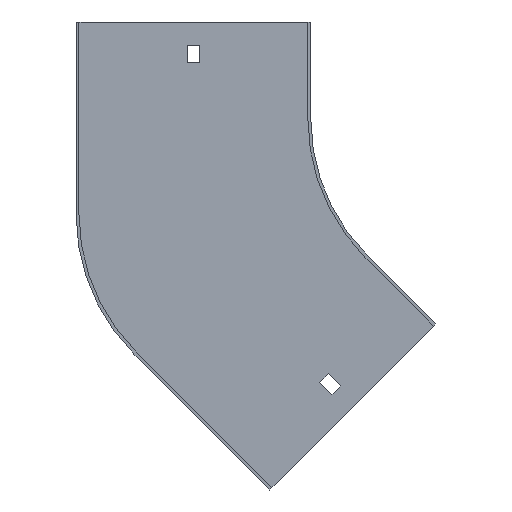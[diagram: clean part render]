
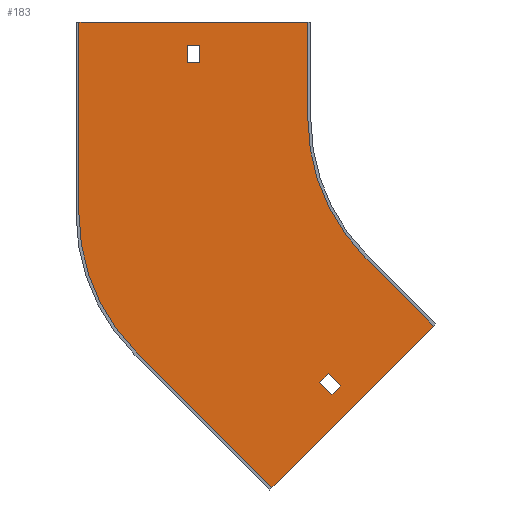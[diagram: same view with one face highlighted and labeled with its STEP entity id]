
A CAD part, front view. The second image highlights one B-rep face of the part: STEP entity #183.
In plain terms, the highlighted planar face has unit normal (0, -1, 0).
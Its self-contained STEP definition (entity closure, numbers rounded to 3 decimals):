
#2 = EDGE_CURVE ( 'NONE', #253, #826, #580, .T. ) ;
#4 = DIRECTION ( 'NONE',  ( -1., 0., 0. ) ) ;
#8 = VECTOR ( 'NONE', #830, 1000. ) ;
#9 = LINE ( 'NONE', #669, #700 ) ;
#21 = ORIENTED_EDGE ( 'NONE', *, *, #709, .F. ) ;
#26 = CARTESIAN_POINT ( 'NONE',  ( -219., -1.5, 50. ) ) ;
#28 = LINE ( 'NONE', #617, #50 ) ;
#32 = EDGE_CURVE ( 'NONE', #560, #77, #521, .T. ) ;
#33 = CARTESIAN_POINT ( 'NONE',  ( -100., -1.5, 50. ) ) ;
#35 = VERTEX_POINT ( 'NONE', #108 ) ;
#36 = VERTEX_POINT ( 'NONE', #240 ) ;
#37 = CARTESIAN_POINT ( 'NONE',  ( -162., -1.5, 29. ) ) ;
#40 = VERTEX_POINT ( 'NONE', #187 ) ;
#43 = LINE ( 'NONE', #720, #833 ) ;
#50 = VECTOR ( 'NONE', #362, 1000. ) ;
#57 = VERTEX_POINT ( 'NONE', #374 ) ;
#61 = EDGE_CURVE ( 'NONE', #850, #253, #43, .T. ) ;
#75 = CIRCLE ( 'NONE', #735, 100. ) ;
#77 = VERTEX_POINT ( 'NONE', #851 ) ;
#87 = LINE ( 'NONE', #26, #303 ) ;
#91 = EDGE_CURVE ( 'NONE', #77, #639, #673, .T. ) ;
#108 = CARTESIAN_POINT ( 'NONE',  ( -70.711, -1.5, -70.711 ) ) ;
#117 = DIRECTION ( 'NONE',  ( -0.707, 0., -0.707 ) ) ;
#121 = DIRECTION ( 'NONE',  ( -0.707, 0., 0.707 ) ) ;
#129 = DIRECTION ( 'NONE',  ( 0., 0., -1. ) ) ;
#142 = LINE ( 'NONE', #399, #670 ) ;
#144 = CARTESIAN_POINT ( 'NONE',  ( -217.5, -1.5, -48.67 ) ) ;
#145 = EDGE_CURVE ( 'NONE', #386, #35, #195, .T. ) ;
#150 = CARTESIAN_POINT ( 'NONE',  ( -35.355, -1.5, -106.066 ) ) ;
#172 = CARTESIAN_POINT ( 'NONE',  ( -100., -1.5, 50. ) ) ;
#183 = ADVANCED_FACE ( 'NONE', ( #794, #262, #405 ), #680, .T. ) ;
#187 = CARTESIAN_POINT ( 'NONE',  ( -118.44, -1.5, -189.151 ) ) ;
#193 = CARTESIAN_POINT ( 'NONE',  ( 0., -1.5, 0. ) ) ;
#195 = CIRCLE ( 'NONE', #668, 100. ) ;
#198 = DIRECTION ( 'NONE',  ( 0., 0., -1. ) ) ;
#201 = EDGE_CURVE ( 'NONE', #639, #319, #9, .T. ) ;
#204 = DIRECTION ( 'NONE',  ( 0., 0., 1. ) ) ;
#214 = ORIENTED_EDGE ( 'NONE', *, *, #145, .F. ) ;
#216 = ORIENTED_EDGE ( 'NONE', *, *, #91, .T. ) ;
#233 = CARTESIAN_POINT ( 'NONE',  ( -70.711, -1.5, -70.711 ) ) ;
#234 = ORIENTED_EDGE ( 'NONE', *, *, #410, .F. ) ;
#235 = EDGE_CURVE ( 'NONE', #699, #36, #638, .T. ) ;
#238 = ORIENTED_EDGE ( 'NONE', *, *, #488, .F. ) ;
#240 = CARTESIAN_POINT ( 'NONE',  ( -217.5, -1.5, 50. ) ) ;
#253 = VERTEX_POINT ( 'NONE', #359 ) ;
#262 = FACE_OUTER_BOUND ( 'NONE', #551, .T. ) ;
#264 = CARTESIAN_POINT ( 'NONE',  ( -162., -1.5, 38. ) ) ;
#289 = ORIENTED_EDGE ( 'NONE', *, *, #61, .F. ) ;
#290 = LINE ( 'NONE', #33, #449 ) ;
#303 = VECTOR ( 'NONE', #486, 1000. ) ;
#304 = ORIENTED_EDGE ( 'NONE', *, *, #855, .F. ) ;
#309 = DIRECTION ( 'NONE',  ( -0.707, 0., -0.707 ) ) ;
#310 = CARTESIAN_POINT ( 'NONE',  ( -34.295, -1.5, -105.005 ) ) ;
#319 = VERTEX_POINT ( 'NONE', #37 ) ;
#326 = VECTOR ( 'NONE', #121, 1000. ) ;
#329 = CARTESIAN_POINT ( 'NONE',  ( -89.449, -1.5, -130.461 ) ) ;
#346 = CARTESIAN_POINT ( 'NONE',  ( -217.5, -1.5, -48.67 ) ) ;
#359 = CARTESIAN_POINT ( 'NONE',  ( -94.045, -1.5, -135.057 ) ) ;
#361 = EDGE_LOOP ( 'NONE', ( #439, #216, #369, #854 ) ) ;
#362 = DIRECTION ( 'NONE',  ( 0.707, 0., 0.707 ) ) ;
#369 = ORIENTED_EDGE ( 'NONE', *, *, #201, .T. ) ;
#374 = CARTESIAN_POINT ( 'NONE',  ( -188.211, -1.5, -119.381 ) ) ;
#379 = CARTESIAN_POINT ( 'NONE',  ( -100., -1.5, 0. ) ) ;
#383 = CARTESIAN_POINT ( 'NONE',  ( -109.955, -1.5, -109.955 ) ) ;
#386 = VERTEX_POINT ( 'NONE', #379 ) ;
#399 = CARTESIAN_POINT ( 'NONE',  ( -162., -1.5, 0. ) ) ;
#405 = FACE_BOUND ( 'NONE', #361, .T. ) ;
#410 = EDGE_CURVE ( 'NONE', #683, #40, #777, .T. ) ;
#412 = VERTEX_POINT ( 'NONE', #172 ) ;
#420 = ORIENTED_EDGE ( 'NONE', *, *, #474, .F. ) ;
#439 = ORIENTED_EDGE ( 'NONE', *, *, #32, .T. ) ;
#448 = VECTOR ( 'NONE', #117, 1000. ) ;
#449 = VECTOR ( 'NONE', #750, 1000. ) ;
#457 = DIRECTION ( 'NONE',  ( 0., -1., 0. ) ) ;
#461 = VECTOR ( 'NONE', #659, 1000. ) ;
#462 = DIRECTION ( 'NONE',  ( 0., 1., 0. ) ) ;
#474 = EDGE_CURVE ( 'NONE', #634, #850, #722, .T. ) ;
#477 = VECTOR ( 'NONE', #848, 1000. ) ;
#483 = CARTESIAN_POINT ( 'NONE',  ( -83.085, -1.5, -136.825 ) ) ;
#485 = ORIENTED_EDGE ( 'NONE', *, *, #726, .F. ) ;
#486 = DIRECTION ( 'NONE',  ( 1., 0., 0. ) ) ;
#488 = EDGE_CURVE ( 'NONE', #35, #683, #836, .T. ) ;
#504 = ORIENTED_EDGE ( 'NONE', *, *, #622, .F. ) ;
#511 = VECTOR ( 'NONE', #198, 1000. ) ;
#521 = LINE ( 'NONE', #717, #721 ) ;
#551 = EDGE_LOOP ( 'NONE', ( #304, #856, #642, #504, #234, #238, #214, #485 ) ) ;
#560 = VERTEX_POINT ( 'NONE', #264 ) ;
#580 = LINE ( 'NONE', #650, #477 ) ;
#606 = DIRECTION ( 'NONE',  ( 0., -1., 0. ) ) ;
#614 = CARTESIAN_POINT ( 'NONE',  ( -155.5, -1.5, 0. ) ) ;
#615 = CARTESIAN_POINT ( 'NONE',  ( -117.5, -1.5, -48.67 ) ) ;
#617 = CARTESIAN_POINT ( 'NONE',  ( 26.87, -1.5, -26.87 ) ) ;
#622 = EDGE_CURVE ( 'NONE', #40, #57, #787, .T. ) ;
#634 = VERTEX_POINT ( 'NONE', #483 ) ;
#638 = LINE ( 'NONE', #346, #8 ) ;
#639 = VERTEX_POINT ( 'NONE', #812 ) ;
#642 = ORIENTED_EDGE ( 'NONE', *, *, #820, .F. ) ;
#650 = CARTESIAN_POINT ( 'NONE',  ( -114.551, -1.5, -114.551 ) ) ;
#654 = VECTOR ( 'NONE', #710, 1000. ) ;
#659 = DIRECTION ( 'NONE',  ( -0.707, 0., 0.707 ) ) ;
#664 = CARTESIAN_POINT ( 'NONE',  ( 0., -1.5, 0. ) ) ;
#668 = AXIS2_PLACEMENT_3D ( 'NONE', #193, #457, #805 ) ;
#669 = CARTESIAN_POINT ( 'NONE',  ( 0., -1.5, 29. ) ) ;
#670 = VECTOR ( 'NONE', #204, 1000. ) ;
#673 = LINE ( 'NONE', #614, #511 ) ;
#680 = PLANE ( 'NONE',  #857 ) ;
#683 = VERTEX_POINT ( 'NONE', #150 ) ;
#692 = ORIENTED_EDGE ( 'NONE', *, *, #2, .F. ) ;
#699 = VERTEX_POINT ( 'NONE', #144 ) ;
#700 = VECTOR ( 'NONE', #4, 1000. ) ;
#709 = EDGE_CURVE ( 'NONE', #826, #634, #28, .T. ) ;
#710 = DIRECTION ( 'NONE',  ( 0.707, 0., -0.707 ) ) ;
#717 = CARTESIAN_POINT ( 'NONE',  ( 0., -1.5, 38. ) ) ;
#720 = CARTESIAN_POINT ( 'NONE',  ( 20.506, -1.5, -20.506 ) ) ;
#721 = VECTOR ( 'NONE', #790, 1000. ) ;
#722 = LINE ( 'NONE', #383, #461 ) ;
#726 = EDGE_CURVE ( 'NONE', #412, #386, #290, .T. ) ;
#727 = CARTESIAN_POINT ( 'NONE',  ( -118.44, -1.5, -189.151 ) ) ;
#735 = AXIS2_PLACEMENT_3D ( 'NONE', #615, #462, #802 ) ;
#739 = CARTESIAN_POINT ( 'NONE',  ( -87.681, -1.5, -141.421 ) ) ;
#750 = DIRECTION ( 'NONE',  ( 0., 0., -1. ) ) ;
#777 = LINE ( 'NONE', #310, #448 ) ;
#787 = LINE ( 'NONE', #727, #326 ) ;
#790 = DIRECTION ( 'NONE',  ( 1., 0., 0. ) ) ;
#794 = FACE_BOUND ( 'NONE', #807, .T. ) ;
#802 = DIRECTION ( 'NONE',  ( 0., 0., -1. ) ) ;
#805 = DIRECTION ( 'NONE',  ( 0., 0., -1. ) ) ;
#807 = EDGE_LOOP ( 'NONE', ( #420, #21, #692, #289 ) ) ;
#811 = EDGE_CURVE ( 'NONE', #319, #560, #142, .T. ) ;
#812 = CARTESIAN_POINT ( 'NONE',  ( -155.5, -1.5, 29. ) ) ;
#820 = EDGE_CURVE ( 'NONE', #57, #699, #75, .T. ) ;
#826 = VERTEX_POINT ( 'NONE', #739 ) ;
#830 = DIRECTION ( 'NONE',  ( 0., 0., 1. ) ) ;
#833 = VECTOR ( 'NONE', #309, 1000. ) ;
#836 = LINE ( 'NONE', #233, #654 ) ;
#848 = DIRECTION ( 'NONE',  ( 0.707, 0., -0.707 ) ) ;
#850 = VERTEX_POINT ( 'NONE', #329 ) ;
#851 = CARTESIAN_POINT ( 'NONE',  ( -155.5, -1.5, 38. ) ) ;
#854 = ORIENTED_EDGE ( 'NONE', *, *, #811, .T. ) ;
#855 = EDGE_CURVE ( 'NONE', #36, #412, #87, .T. ) ;
#856 = ORIENTED_EDGE ( 'NONE', *, *, #235, .F. ) ;
#857 = AXIS2_PLACEMENT_3D ( 'NONE', #664, #606, #129 ) ;
